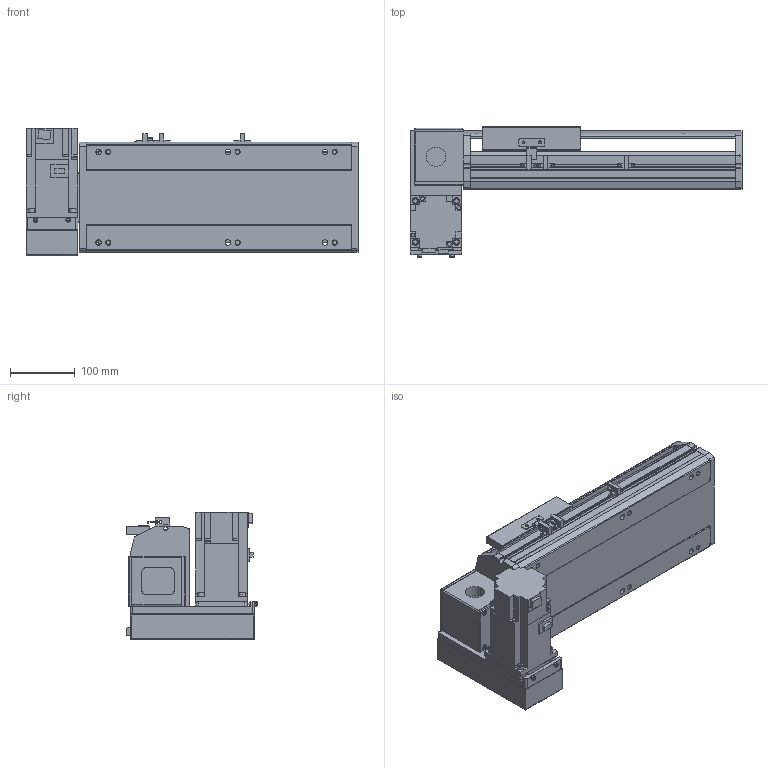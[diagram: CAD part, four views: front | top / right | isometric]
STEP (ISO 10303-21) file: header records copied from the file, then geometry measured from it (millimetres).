
FILE_DESCRIPTION( ( 'STEP AP214' ), '1' );
FILE_NAME( 'x:/temp/worker_4/temp/exporttempdir_2248_329_nHPvk/format_0/PBS170-P40-S150-LD-T75-C1-N(0).stp', '2022-06-07T07:50:04', ( 'License CC BY-ND 4.0' ), ( 'CADENAS' ), ' ', 'PARTsolutions', ' ' );
FILE_SCHEMA( ( 'AUTOMOTIVE_DESIGN { 1 0 10303 214 1 1 1 1 }' ) );
Length unit declared in the file: millimetre
Products named in the file (7): PBS170-P40-S150-LD-T75-C1-N(0); _PBS170-S150()_body; _PBS170T-LD_motors; _T75-p1; _PBS170_sliser; _PBS170_plant; _PBS170_sensor
Assembly tree (8 placements, depth 2):
  PBS170-P40-S150-LD-T75-C1-N(0)
    _PBS170-S150()_body
    _PBS170T-LD_motors
    _T75-p1
    _PBS170_sliser
    _PBS170_plant
    _PBS170_sensor  x3
Bounding box: 513 x 201 x 197.3 mm (x, y, z)
Volume: 4934500 mm3; surface area: 709228.4 mm2
Topology: 8 solids, 8 shells, 1002 faces, 2675 edges, 1744 vertices
Faces by surface type: plane 657, cylinder 299, cone 36, sphere 8, torus 2
Full cylindrical faces by diameter (mm): 3.242 x4, 4 x2, 4.4 x4, 4.5 x6, 4.917 x4, 6 x9, 6.647 x14, 7 x2, 7.5 x4, 8 x8, 8.5 x6, 10 x4, 10.5 x6, 11 x2, 30 x2, 40 x1, 70 x1
Entity records: 36530 total; most frequent: CARTESIAN_POINT 5381, DIRECTION 4950, ORIENTED_EDGE 4728, EDGE_CURVE 2364, AXIS2_PLACEMENT_3D 1687, VERTEX_POINT 1610, LINE 1576, VECTOR 1576
